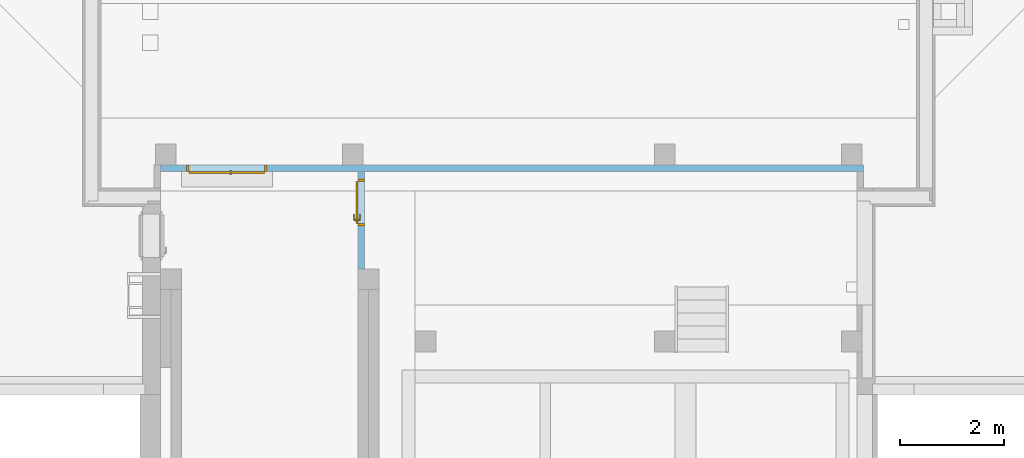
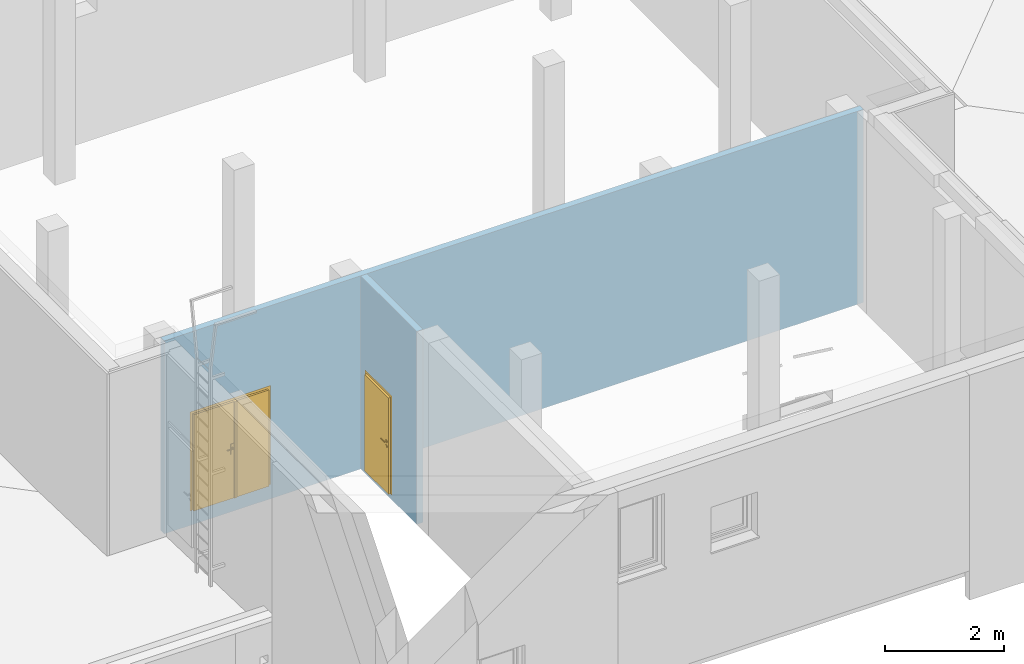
# One storey, part 14 of 17: 2 doors, 2 openings, plus 2 elements that do not belong to this part.
"""IFC4 building model written with IfcOpenShell, lengths in metres."""

from ifc_helpers import new_model, entity, si_unit, converted_unit, derived_unit, frame, frame_2d, origin, origin_with_axes, place, context, subcontext, project, spatial, polyline, rectangle, outline, extrude, closed_shell, open_shell, surface_model, source, transform, mapped, material, layer, layer_set, layer_usage, type_object, element, fill, save


model = new_model("IFC4")

# Units and contexts
model_context = context("Model", 3, precision=1e-05, world=origin())
body_context = subcontext(model_context, "Body", "Model", "MODEL_VIEW")
ifc_project = project(units=[si_unit("LENGTHUNIT", "METRE"), si_unit("AREAUNIT", "SQUARE_METRE"), si_unit("VOLUMEUNIT", "CUBIC_METRE"), si_unit("MASSUNIT", "GRAM", prefix="KILO"), converted_unit("PLANEANGLEUNIT", "DEGREE", entity("IfcPlaneAngleMeasure", 0.0174532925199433), si_unit("PLANEANGLEUNIT", "RADIAN"), dimensions=[0, 0, 0, 0, 0, 0, 0]), derived_unit("THERMALTRANSMITTANCEUNIT", [(si_unit("POWERUNIT", "WATT"), 1), (si_unit("THERMODYNAMICTEMPERATUREUNIT", "KELVIN"), -1), (si_unit("LENGTHUNIT", "METRE"), -2)]), derived_unit("VOLUMETRICFLOWRATEUNIT", [(si_unit("LENGTHUNIT", "METRE"), 3), (converted_unit("TIMEUNIT", "hour", entity("IfcTimeMeasure", 3600.0), si_unit("TIMEUNIT", "SECOND"), dimensions=[0, 0, 1, 0, 0, 0, 0]), -1), (si_unit("LENGTHUNIT", "METRE"), -1)])], contexts=[model_context])

# Site, building, storey
site_placement = place(None, origin())
site = spatial("IfcSite", under=ifc_project, at=site_placement, Name="3. ASŘ", CompositionType="ELEMENT")
building_placement = place(site_placement, origin())
building = spatial("IfcBuilding", under=site, at=building_placement, Name="Pavilon C", CompositionType="ELEMENT")
storey_placement = place(building_placement, frame((0.0, 0.0, 13.8)))
storey = spatial("IfcBuildingStorey", under=building, at=storey_placement, Name="Půdorys 5.NP", CompositionType="ELEMENT", Elevation=13.8)

# Wall, opening, door
ifc_material_1 = material(Name="ZDIVO Z CDm")
ifc_layer_1 = layer(ifc_material_1, 0.125)
ifc_layer_set_1 = layer_set([ifc_layer_1])
ifc_layer_usage_1 = layer_usage(ifc_layer_set_1, "AXIS2", "POSITIVE", 0.0)
wall_1_placement = place(storey_placement, frame((30.65, 3.275, -0.1)))
wall_1 = element("IfcWall", 1, at=wall_1_placement, inside=storey, material=ifc_layer_usage_1, Name="ZDIVO Z CDm", context=body_context, shape_type="SweptSolid", body=[
    extrude(rectangle(XDim=13.525, YDim=0.125, at=frame_2d((6.7625, 0.0625000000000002), x_axis=(1.0, 0.0))), origin_with_axes(), (0.0, 0.0, 1.0), 3.95),
])
opening_1_placement = place(wall_1_placement, frame((0.5, 0.0, 0.3), z_axis=(0.0, 1.0, 0.0), x_axis=(0.0, 0.0, 1.0)))
opening_1 = element("IfcOpeningElement", 2, at=opening_1_placement, cuts=wall_1, Name="Dveřní otvor", ObjectType="Opening", context=body_context, shape_type="SweptSolid", body=[
    extrude(outline(polyline([(0.0, 1.55), (2.02, 1.55), (2.02, 0.0), (0.0, 0.0), (0.0, 1.55)])), origin_with_axes(), (0.0, 0.0, 1.0), 0.125),
])
door_type_1 = type_object("IfcDoorType", Name="D501", OperationType="NOTDEFINED", ParameterTakesPrecedence=False, PredefinedType="DOOR")
shared_shape_1 = source(origin_with_axes(), body_context, "Body", "SurfaceModel", [
    surface_model("IfcShellBasedSurfaceModel", [(0.0, 0.125, 2.02), (0.0, 0.125, -7.65404249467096e-18), (0.05, 0.125, -7.65404249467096e-18), (0.05, 0.125, 2.02), (0.0, 0.0, 7.65404249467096e-18), (0.0, 2.41584530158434e-16, 2.02), (0.05, 2.41584530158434e-16, 2.02), (0.05, 0.0, 7.65404249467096e-18)], [closed_shell([[[0, 1, 2, 3]], [[4, 5, 6, 7]], [[1, 0, 5, 4]], [[2, 1, 4, 7]], [[3, 2, 7, 6]], [[0, 3, 6, 5]]], orient=[[False], [False], [False], [False], [False], [False]])]),
    surface_model("IfcShellBasedSurfaceModel", [(1.5, 0.125, 2.02), (1.5, 0.125, -7.65404249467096e-18), (1.55, 0.125, -7.65404249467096e-18), (1.55, 0.125, 2.02), (1.5, 0.0, 7.65404249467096e-18), (1.5, 2.41584530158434e-16, 2.02), (1.55, 2.41584530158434e-16, 2.02), (1.55, 0.0, 7.65404249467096e-18)], [closed_shell([[[0, 1, 2, 3]], [[4, 5, 6, 7]], [[1, 0, 5, 4]], [[2, 1, 4, 7]], [[3, 2, 7, 6]], [[0, 3, 6, 5]]], orient=[[False], [False], [False], [False], [False], [False]])]),
    surface_model("IfcShellBasedSurfaceModel", [(0.05, 0.125, 2.02), (0.05, 0.125, 1.97), (1.5, 0.125, 1.97), (1.5, 0.125, 2.02), (0.05, 2.41584530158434e-16, 1.97), (0.05, 2.41584530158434e-16, 2.02), (1.5, 2.41584530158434e-16, 2.02), (1.5, 2.41584530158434e-16, 1.97)], [closed_shell([[[0, 1, 2, 3]], [[4, 5, 6, 7]], [[1, 0, 5, 4]], [[2, 1, 4, 7]], [[3, 2, 7, 6]], [[0, 3, 6, 5]]], orient=[[False], [False], [False], [False], [False], [False]])]),
    surface_model("IfcShellBasedSurfaceModel", [(0.05, 0.165, 1.97), (0.05, 0.165, -1.25526296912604e-17), (0.85, 0.165, -1.25526296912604e-17), (0.85, 0.165, 1.97), (0.05, 0.125, -7.65404249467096e-18), (0.05, 0.125, 1.97), (0.85, 0.125, 1.97), (0.85, 0.125, -7.65404249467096e-18)], [closed_shell([[[0, 1, 2, 3]], [[4, 5, 6, 7]], [[1, 0, 5, 4]], [[2, 1, 4, 7]], [[3, 2, 7, 6]], [[0, 3, 6, 5]]], orient=[[False], [False], [False], [False], [False], [False]])]),
    surface_model("IfcShellBasedSurfaceModel", [(0.83, 0.165, 1.97), (0.87, 0.165, 1.97), (0.87, 0.165, -1.25526296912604e-17), (0.83, 0.165, -1.25526296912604e-17), (0.83, 0.185, -1.50019232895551e-17), (0.87, 0.185, -1.50019232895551e-17), (0.87, 0.185, 1.97), (0.83, 0.185, 1.97)], [closed_shell([[[0, 1, 2, 3]], [[4, 5, 6, 7]], [[3, 4, 7, 0]], [[2, 5, 4, 3]], [[1, 6, 5, 2]], [[0, 7, 6, 1]]], orient=[[False], [False], [False], [False], [False], [False]])]),
    surface_model("IfcShellBasedSurfaceModel", [(0.76, 0.125, 1.125), (0.76, 0.125, 0.91), (0.81, 0.125, 0.91), (0.81, 0.125, 1.125), (0.76, 0.115, 0.91), (0.76, 0.115, 1.125), (0.81, 0.115, 1.125), (0.81, 0.115, 0.91)], [closed_shell([[[0, 1, 2, 3]], [[4, 5, 6, 7]], [[1, 0, 5, 4]], [[2, 1, 4, 7]], [[3, 2, 7, 6]], [[0, 3, 6, 5]]], orient=[[False], [False], [False], [False], [False], [False]])]),
    surface_model("IfcShellBasedSurfaceModel", [(0.785, 0.115, 1.06), (0.78, 0.115, 1.05866025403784), (0.776339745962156, 0.115, 1.055), (0.775, 0.115, 1.05), (0.776339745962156, 0.115, 1.045), (0.78, 0.115, 1.04133974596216), (0.785, 0.115, 1.04), (0.79, 0.115, 1.04133974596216), (0.793660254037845, 0.115, 1.045), (0.795, 0.115, 1.05), (0.793660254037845, 0.115, 1.055), (0.79, 0.115, 1.05866025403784), (0.79, 0.0700000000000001, 1.05866025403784), (0.785, 0.0750000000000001, 1.06), (0.793660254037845, 0.0663397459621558, 1.055), (0.795, 0.0650000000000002, 1.05), (0.793660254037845, 0.0663397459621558, 1.045), (0.79, 0.0700000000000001, 1.04133974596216), (0.785, 0.0750000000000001, 1.04), (0.78, 0.0800000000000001, 1.04133974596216), (0.776339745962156, 0.0836602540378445, 1.045), (0.775, 0.0850000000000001, 1.05), (0.776339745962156, 0.0836602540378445, 1.055), (0.78, 0.0800000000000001, 1.05866025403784), (0.67, 0.0700000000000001, 1.05866025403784), (0.67, 0.0750000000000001, 1.06), (0.67, 0.0663397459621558, 1.055), (0.67, 0.0650000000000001, 1.05), (0.67, 0.0663397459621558, 1.045), (0.67, 0.0700000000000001, 1.04133974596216), (0.67, 0.0750000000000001, 1.04), (0.67, 0.0800000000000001, 1.04133974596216), (0.67, 0.0836602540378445, 1.045), (0.67, 0.0850000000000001, 1.05), (0.67, 0.0836602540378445, 1.055), (0.67, 0.0800000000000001, 1.05866025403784)], [open_shell([[[0, 1, 2, 3, 4, 5, 6, 7, 8, 9, 10, 11]], [[0, 11, 12, 13]], [[11, 10, 14, 12]], [[10, 9, 15, 14]], [[9, 8, 16, 15]], [[8, 7, 17, 16]], [[7, 6, 18, 17]], [[6, 5, 19, 18]], [[5, 4, 20, 19]], [[4, 3, 21, 20]], [[3, 2, 22, 21]], [[2, 1, 23, 22]], [[1, 0, 13, 23]], [[13, 12, 24, 25]], [[12, 14, 26, 24]], [[14, 15, 27, 26]], [[15, 16, 28, 27]], [[16, 17, 29, 28]], [[17, 18, 30, 29]], [[18, 19, 31, 30]], [[19, 20, 32, 31]], [[20, 21, 33, 32]], [[21, 22, 34, 33]], [[22, 23, 35, 34]], [[23, 13, 25, 35]]], orient=[[False], [False], [False], [False], [False], [False], [False], [False], [False], [False], [False], [False], [False], [False], [False], [False], [False], [False], [False], [False], [False], [False], [False], [False], [False]])]),
    surface_model("IfcShellBasedSurfaceModel", [(0.76, 0.165, 1.125), (0.81, 0.165, 1.125), (0.81, 0.165, 0.91), (0.76, 0.165, 0.91), (0.76, 0.175, 0.91), (0.81, 0.175, 0.91), (0.81, 0.175, 1.125), (0.76, 0.175, 1.125)], [closed_shell([[[0, 1, 2, 3]], [[4, 5, 6, 7]], [[3, 4, 7, 0]], [[2, 5, 4, 3]], [[1, 6, 5, 2]], [[0, 7, 6, 1]]], orient=[[False], [False], [False], [False], [False], [False]])]),
    surface_model("IfcShellBasedSurfaceModel", [(0.785, 0.175, 1.06), (0.79, 0.175, 1.05866025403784), (0.793660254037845, 0.175, 1.055), (0.795, 0.175, 1.05), (0.793660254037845, 0.175, 1.045), (0.79, 0.175, 1.04133974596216), (0.785, 0.175, 1.04), (0.78, 0.175, 1.04133974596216), (0.776339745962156, 0.175, 1.045), (0.775, 0.175, 1.05), (0.776339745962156, 0.175, 1.055), (0.78, 0.175, 1.05866025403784), (0.785, 0.215, 1.06), (0.79, 0.22, 1.05866025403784), (0.793660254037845, 0.223660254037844, 1.055), (0.795, 0.225, 1.05), (0.793660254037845, 0.223660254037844, 1.045), (0.79, 0.22, 1.04133974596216), (0.785, 0.215, 1.04), (0.78, 0.21, 1.04133974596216), (0.776339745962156, 0.206339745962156, 1.045), (0.775, 0.205, 1.05), (0.776339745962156, 0.206339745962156, 1.055), (0.78, 0.21, 1.05866025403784), (0.67, 0.215, 1.06), (0.67, 0.22, 1.05866025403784), (0.67, 0.223660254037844, 1.055), (0.67, 0.225, 1.05), (0.67, 0.223660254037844, 1.045), (0.67, 0.22, 1.04133974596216), (0.67, 0.215, 1.04), (0.67, 0.21, 1.04133974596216), (0.67, 0.206339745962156, 1.045), (0.67, 0.205, 1.05), (0.67, 0.206339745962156, 1.055), (0.67, 0.21, 1.05866025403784)], [open_shell([[[0, 1, 2, 3, 4, 5, 6, 7, 8, 9, 10, 11]], [[0, 12, 13, 1]], [[1, 13, 14, 2]], [[2, 14, 15, 3]], [[3, 15, 16, 4]], [[4, 16, 17, 5]], [[5, 17, 18, 6]], [[6, 18, 19, 7]], [[7, 19, 20, 8]], [[8, 20, 21, 9]], [[9, 21, 22, 10]], [[10, 22, 23, 11]], [[11, 23, 12, 0]], [[12, 24, 25, 13]], [[13, 25, 26, 14]], [[14, 26, 27, 15]], [[15, 27, 28, 16]], [[16, 28, 29, 17]], [[17, 29, 30, 18]], [[18, 30, 31, 19]], [[19, 31, 32, 20]], [[20, 32, 33, 21]], [[21, 33, 34, 22]], [[22, 34, 35, 23]], [[23, 35, 24, 12]]], orient=[[False], [False], [False], [False], [False], [False], [False], [False], [False], [False], [False], [False], [False], [False], [False], [False], [False], [False], [False], [False], [False], [False], [False], [False], [False]])]),
    surface_model("IfcShellBasedSurfaceModel", [(0.851, 0.165, 1.97), (0.851, 0.165, -1.25526296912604e-17), (1.5, 0.165, -1.25526296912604e-17), (1.5, 0.165, 1.97), (0.851, 0.125, -7.65404249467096e-18), (0.851, 0.125, 1.97), (1.5, 0.125, 1.97), (1.5, 0.125, -7.65404249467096e-18)], [closed_shell([[[0, 1, 2, 3]], [[4, 5, 6, 7]], [[1, 0, 5, 4]], [[2, 1, 4, 7]], [[3, 2, 7, 6]], [[0, 3, 6, 5]]], orient=[[False], [False], [False], [False], [False], [False]])]),
    surface_model("IfcShellBasedSurfaceModel", [(0.831, 0.125, 1.97), (0.831, 0.125, -7.65404249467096e-18), (0.871, 0.125, -7.65404249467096e-18), (0.871, 0.125, 1.97), (0.831, 0.105, -5.20474889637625e-18), (0.831, 0.105, 1.97), (0.871, 0.105, 1.97), (0.871, 0.105, -5.20474889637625e-18)], [closed_shell([[[0, 1, 2, 3]], [[4, 5, 6, 7]], [[1, 0, 5, 4]], [[2, 1, 4, 7]], [[3, 2, 7, 6]], [[0, 3, 6, 5]]], orient=[[False], [False], [False], [False], [False], [False]])]),
])
door_1_placement = place(opening_1_placement, frame((0.0, 0.0, 0.125), z_axis=(1.0, 0.0, 0.0), x_axis=(0.0, 1.0, -1.22464679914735e-16)))
door_1 = element("IfcDoor", 3, at=door_1_placement, inside=storey, type_object=door_type_1, Name="D501", OverallHeight=2.02, OverallWidth=1.55, context=body_context, shape_type="MappedRepresentation", body=[
    mapped(shared_shape_1, transform((0.0, 0.0, 0.0), x_axis=(1.0, 0.0, 0.0), y_axis=(0.0, -1.0, 0.0), z_axis=(0.0, 0.0, 1.0), scale=1.0)),
])
fill(opening_1, door_1)

ifc_material_2 = material(Name="ZDIVO Z CDm")
ifc_layer_2 = layer(ifc_material_2, 0.125)
ifc_layer_set_2 = layer_set([ifc_layer_2])
ifc_layer_usage_2 = layer_usage(ifc_layer_set_2, "AXIS2", "POSITIVE", 0.0)
wall_2_placement = place(storey_placement, frame((34.45, 3.275, -0.1), z_axis=(0.0, 0.0, 1.0), x_axis=(0.0, -1.0, 0.0)))
wall_2 = element("IfcWall", 4, at=wall_2_placement, inside=storey, material=ifc_layer_usage_2, Name="ZDIVO Z CDm", context=body_context, shape_type="SweptSolid", body=[
    extrude(rectangle(XDim=1.875, YDim=0.125, at=frame_2d((0.937499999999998, 0.0625), x_axis=(1.0, 0.0))), origin_with_axes(), (0.0, 0.0, 1.0), 3.95),
])
opening_2_placement = place(wall_2_placement, frame((1.05, 0.125, 0.1), z_axis=(0.0, -1.0, 0.0), x_axis=(0.0, 0.0, 1.0)))
opening_2 = element("IfcOpeningElement", 5, at=opening_2_placement, cuts=wall_2, Name="Dveřní otvor", ObjectType="Opening", context=body_context, shape_type="SweptSolid", body=[
    extrude(outline(polyline([(0.0, 0.9), (2.02, 0.9), (2.02, 0.0), (0.0, 0.0), (0.0, 0.9)])), origin_with_axes(), (0.0, 0.0, 1.0), 0.125),
])
door_type_2 = type_object("IfcDoorType", Name="D101", OperationType="NOTDEFINED", ParameterTakesPrecedence=False, PredefinedType="DOOR")
shared_shape_2 = source(origin_with_axes(), body_context, "Body", "SurfaceModel", [
    surface_model("IfcShellBasedSurfaceModel", [(0.0, 0.125, 2.02), (0.0, 0.125, -7.65404249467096e-18), (0.05, 0.125, -7.65404249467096e-18), (0.05, 0.125, 2.02), (0.0, 0.0, 7.65404249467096e-18), (0.0, 2.41584530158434e-16, 2.02), (0.05, 2.41584530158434e-16, 2.02), (0.05, 0.0, 7.65404249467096e-18)], [closed_shell([[[0, 1, 2, 3]], [[4, 5, 6, 7]], [[1, 0, 5, 4]], [[2, 1, 4, 7]], [[3, 2, 7, 6]], [[0, 3, 6, 5]]], orient=[[False], [False], [False], [False], [False], [False]])]),
    surface_model("IfcShellBasedSurfaceModel", [(0.85, 0.125, 2.02), (0.85, 0.125, -7.65404249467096e-18), (0.9, 0.125, -7.65404249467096e-18), (0.9, 0.125, 2.02), (0.85, 0.0, 7.65404249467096e-18), (0.85, 2.41584530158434e-16, 2.02), (0.9, 2.41584530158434e-16, 2.02), (0.9, 0.0, 7.65404249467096e-18)], [closed_shell([[[0, 1, 2, 3]], [[4, 5, 6, 7]], [[1, 0, 5, 4]], [[2, 1, 4, 7]], [[3, 2, 7, 6]], [[0, 3, 6, 5]]], orient=[[False], [False], [False], [False], [False], [False]])]),
    surface_model("IfcShellBasedSurfaceModel", [(0.05, 0.125, 2.02), (0.05, 0.125, 1.97), (0.85, 0.125, 1.97), (0.85, 0.125, 2.02), (0.05, 2.41584530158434e-16, 1.97), (0.05, 2.41584530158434e-16, 2.02), (0.85, 2.41584530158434e-16, 2.02), (0.85, 2.41584530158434e-16, 1.97)], [closed_shell([[[0, 1, 2, 3]], [[4, 5, 6, 7]], [[1, 0, 5, 4]], [[2, 1, 4, 7]], [[3, 2, 7, 6]], [[0, 3, 6, 5]]], orient=[[False], [False], [False], [False], [False], [False]])]),
    surface_model("IfcShellBasedSurfaceModel", [(0.05, 0.165, 1.97), (0.05, 0.165, -1.25526296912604e-17), (0.85, 0.165, -1.25526296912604e-17), (0.85, 0.165, 1.97), (0.05, 0.125, -7.65404249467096e-18), (0.05, 0.125, 1.97), (0.85, 0.125, 1.97), (0.85, 0.125, -7.65404249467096e-18)], [closed_shell([[[0, 1, 2, 3]], [[4, 5, 6, 7]], [[1, 0, 5, 4]], [[2, 1, 4, 7]], [[3, 2, 7, 6]], [[0, 3, 6, 5]]], orient=[[False], [False], [False], [False], [False], [False]])]),
    surface_model("IfcShellBasedSurfaceModel", [(0.808815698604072, 0.125, 0.93625), (0.8125, 0.125, 0.95), (0.808815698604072, 0.125, 0.96375), (0.79875, 0.125, 0.973815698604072), (0.785, 0.125, 0.9775), (0.77125, 0.125, 0.973815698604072), (0.761184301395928, 0.125, 0.96375), (0.7575, 0.125, 0.95), (0.761184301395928, 0.125, 0.93625), (0.77125, 0.125, 0.926184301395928), (0.785, 0.125, 0.9225), (0.79875, 0.125, 0.926184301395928), (0.8125, 0.1125, 0.95), (0.808815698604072, 0.1125, 0.93625), (0.79875, 0.1125, 0.926184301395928), (0.785, 0.1125, 0.9225), (0.77125, 0.1125, 0.926184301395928), (0.761184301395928, 0.1125, 0.93625), (0.7575, 0.1125, 0.95), (0.761184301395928, 0.1125, 0.96375), (0.77125, 0.1125, 0.973815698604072), (0.785, 0.1125, 0.9775), (0.79875, 0.1125, 0.973815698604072), (0.808815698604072, 0.1125, 0.96375)], [closed_shell([[[0, 1, 2, 3, 4, 5, 6, 7, 8, 9, 10, 11]], [[12, 13, 14, 15, 16, 17, 18, 19, 20, 21, 22, 23]], [[1, 0, 13, 12]], [[2, 1, 12, 23]], [[3, 2, 23, 22]], [[4, 3, 22, 21]], [[5, 4, 21, 20]], [[6, 5, 20, 19]], [[7, 6, 19, 18]], [[8, 7, 18, 17]], [[9, 8, 17, 16]], [[10, 9, 16, 15]], [[11, 10, 15, 14]], [[0, 11, 14, 13]]], orient=[[False], [False], [False], [False], [False], [False], [False], [False], [False], [False], [False], [False], [False], [False]])]),
    surface_model("IfcShellBasedSurfaceModel", [(0.808815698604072, 0.125, 1.03625), (0.8125, 0.125, 1.05), (0.808815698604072, 0.125, 1.06375), (0.79875, 0.125, 1.07381569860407), (0.785, 0.125, 1.0775), (0.77125, 0.125, 1.07381569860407), (0.761184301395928, 0.125, 1.06375), (0.7575, 0.125, 1.05), (0.761184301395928, 0.125, 1.03625), (0.77125, 0.125, 1.02618430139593), (0.785, 0.125, 1.0225), (0.79875, 0.125, 1.02618430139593), (0.8125, 0.1125, 1.05), (0.808815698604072, 0.1125, 1.03625), (0.79875, 0.1125, 1.02618430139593), (0.785, 0.1125, 1.0225), (0.77125, 0.1125, 1.02618430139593), (0.761184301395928, 0.1125, 1.03625), (0.7575, 0.1125, 1.05), (0.761184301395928, 0.1125, 1.06375), (0.77125, 0.1125, 1.07381569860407), (0.785, 0.1125, 1.0775), (0.79875, 0.1125, 1.07381569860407), (0.808815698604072, 0.1125, 1.06375)], [closed_shell([[[0, 1, 2, 3, 4, 5, 6, 7, 8, 9, 10, 11]], [[12, 13, 14, 15, 16, 17, 18, 19, 20, 21, 22, 23]], [[1, 0, 13, 12]], [[2, 1, 12, 23]], [[3, 2, 23, 22]], [[4, 3, 22, 21]], [[5, 4, 21, 20]], [[6, 5, 20, 19]], [[7, 6, 19, 18]], [[8, 7, 18, 17]], [[9, 8, 17, 16]], [[10, 9, 16, 15]], [[11, 10, 15, 14]], [[0, 11, 14, 13]]], orient=[[False], [False], [False], [False], [False], [False], [False], [False], [False], [False], [False], [False], [False], [False]])]),
    surface_model("IfcShellBasedSurfaceModel", [(0.785, 0.125, 1.06), (0.78, 0.125, 1.05866025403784), (0.776339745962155, 0.125, 1.055), (0.775, 0.125, 1.05), (0.776339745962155, 0.125, 1.045), (0.78, 0.125, 1.04133974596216), (0.785, 0.125, 1.04), (0.79, 0.125, 1.04133974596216), (0.793660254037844, 0.125, 1.045), (0.795, 0.125, 1.05), (0.793660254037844, 0.125, 1.055), (0.79, 0.125, 1.05866025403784), (0.79, 0.0800000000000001, 1.05866025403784), (0.785, 0.0850000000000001, 1.06), (0.793660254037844, 0.0763397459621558, 1.055), (0.795, 0.0750000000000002, 1.05), (0.793660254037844, 0.0763397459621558, 1.045), (0.79, 0.0800000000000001, 1.04133974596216), (0.785, 0.0850000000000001, 1.04), (0.78, 0.0900000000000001, 1.04133974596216), (0.776339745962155, 0.0936602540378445, 1.045), (0.775, 0.0950000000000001, 1.05), (0.776339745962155, 0.0936602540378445, 1.055), (0.78, 0.0900000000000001, 1.05866025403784), (0.67, 0.0800000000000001, 1.05866025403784), (0.67, 0.0850000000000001, 1.06), (0.67, 0.0763397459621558, 1.055), (0.67, 0.0750000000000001, 1.05), (0.67, 0.0763397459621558, 1.045), (0.67, 0.0800000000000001, 1.04133974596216), (0.67, 0.0850000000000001, 1.04), (0.67, 0.0900000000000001, 1.04133974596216), (0.67, 0.0936602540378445, 1.045), (0.67, 0.0950000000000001, 1.05), (0.67, 0.0936602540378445, 1.055), (0.67, 0.0900000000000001, 1.05866025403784)], [open_shell([[[0, 1, 2, 3, 4, 5, 6, 7, 8, 9, 10, 11]], [[0, 11, 12, 13]], [[11, 10, 14, 12]], [[10, 9, 15, 14]], [[9, 8, 16, 15]], [[8, 7, 17, 16]], [[7, 6, 18, 17]], [[6, 5, 19, 18]], [[5, 4, 20, 19]], [[4, 3, 21, 20]], [[3, 2, 22, 21]], [[2, 1, 23, 22]], [[1, 0, 13, 23]], [[13, 12, 24, 25]], [[12, 14, 26, 24]], [[14, 15, 27, 26]], [[15, 16, 28, 27]], [[16, 17, 29, 28]], [[17, 18, 30, 29]], [[18, 19, 31, 30]], [[19, 20, 32, 31]], [[20, 21, 33, 32]], [[21, 22, 34, 33]], [[22, 23, 35, 34]], [[23, 13, 25, 35]]], orient=[[False], [False], [False], [False], [False], [False], [False], [False], [False], [False], [False], [False], [False], [False], [False], [False], [False], [False], [False], [False], [False], [False], [False], [False], [False]])]),
    surface_model("IfcShellBasedSurfaceModel", [(0.808815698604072, 0.165, 0.93625), (0.79875, 0.165, 0.926184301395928), (0.785, 0.165, 0.9225), (0.77125, 0.165, 0.926184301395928), (0.761184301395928, 0.165, 0.93625), (0.7575, 0.165, 0.95), (0.761184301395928, 0.165, 0.96375), (0.77125, 0.165, 0.973815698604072), (0.785, 0.165, 0.9775), (0.79875, 0.165, 0.973815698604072), (0.808815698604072, 0.165, 0.96375), (0.8125, 0.165, 0.95), (0.8125, 0.1775, 0.95), (0.808815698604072, 0.1775, 0.96375), (0.79875, 0.1775, 0.973815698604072), (0.785, 0.1775, 0.9775), (0.77125, 0.1775, 0.973815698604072), (0.761184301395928, 0.1775, 0.96375), (0.7575, 0.1775, 0.95), (0.761184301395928, 0.1775, 0.93625), (0.77125, 0.1775, 0.926184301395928), (0.785, 0.1775, 0.9225), (0.79875, 0.1775, 0.926184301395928), (0.808815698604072, 0.1775, 0.93625)], [closed_shell([[[0, 1, 2, 3, 4, 5, 6, 7, 8, 9, 10, 11]], [[12, 13, 14, 15, 16, 17, 18, 19, 20, 21, 22, 23]], [[11, 12, 23, 0]], [[10, 13, 12, 11]], [[9, 14, 13, 10]], [[8, 15, 14, 9]], [[7, 16, 15, 8]], [[6, 17, 16, 7]], [[5, 18, 17, 6]], [[4, 19, 18, 5]], [[3, 20, 19, 4]], [[2, 21, 20, 3]], [[1, 22, 21, 2]], [[0, 23, 22, 1]]], orient=[[False], [False], [False], [False], [False], [False], [False], [False], [False], [False], [False], [False], [False], [False]])]),
    surface_model("IfcShellBasedSurfaceModel", [(0.808815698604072, 0.165, 1.03625), (0.79875, 0.165, 1.02618430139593), (0.785, 0.165, 1.0225), (0.77125, 0.165, 1.02618430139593), (0.761184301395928, 0.165, 1.03625), (0.7575, 0.165, 1.05), (0.761184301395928, 0.165, 1.06375), (0.77125, 0.165, 1.07381569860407), (0.785, 0.165, 1.0775), (0.79875, 0.165, 1.07381569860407), (0.808815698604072, 0.165, 1.06375), (0.8125, 0.165, 1.05), (0.8125, 0.1775, 1.05), (0.808815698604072, 0.1775, 1.06375), (0.79875, 0.1775, 1.07381569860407), (0.785, 0.1775, 1.0775), (0.77125, 0.1775, 1.07381569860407), (0.761184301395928, 0.1775, 1.06375), (0.7575, 0.1775, 1.05), (0.761184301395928, 0.1775, 1.03625), (0.77125, 0.1775, 1.02618430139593), (0.785, 0.1775, 1.0225), (0.79875, 0.1775, 1.02618430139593), (0.808815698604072, 0.1775, 1.03625)], [closed_shell([[[0, 1, 2, 3, 4, 5, 6, 7, 8, 9, 10, 11]], [[12, 13, 14, 15, 16, 17, 18, 19, 20, 21, 22, 23]], [[11, 12, 23, 0]], [[10, 13, 12, 11]], [[9, 14, 13, 10]], [[8, 15, 14, 9]], [[7, 16, 15, 8]], [[6, 17, 16, 7]], [[5, 18, 17, 6]], [[4, 19, 18, 5]], [[3, 20, 19, 4]], [[2, 21, 20, 3]], [[1, 22, 21, 2]], [[0, 23, 22, 1]]], orient=[[False], [False], [False], [False], [False], [False], [False], [False], [False], [False], [False], [False], [False], [False]])]),
    surface_model("IfcShellBasedSurfaceModel", [(0.785, 0.165, 1.06), (0.79, 0.165, 1.05866025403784), (0.793660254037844, 0.165, 1.055), (0.795, 0.165, 1.05), (0.793660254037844, 0.165, 1.045), (0.79, 0.165, 1.04133974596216), (0.785, 0.165, 1.04), (0.78, 0.165, 1.04133974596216), (0.776339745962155, 0.165, 1.045), (0.775, 0.165, 1.05), (0.776339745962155, 0.165, 1.055), (0.78, 0.165, 1.05866025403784), (0.785, 0.205, 1.06), (0.79, 0.21, 1.05866025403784), (0.793660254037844, 0.213660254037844, 1.055), (0.795, 0.215, 1.05), (0.793660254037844, 0.213660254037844, 1.045), (0.79, 0.21, 1.04133974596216), (0.785, 0.205, 1.04), (0.78, 0.2, 1.04133974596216), (0.776339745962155, 0.196339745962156, 1.045), (0.775, 0.195, 1.05), (0.776339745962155, 0.196339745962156, 1.055), (0.78, 0.2, 1.05866025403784), (0.67, 0.205, 1.06), (0.67, 0.21, 1.05866025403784), (0.67, 0.213660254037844, 1.055), (0.67, 0.215, 1.05), (0.67, 0.213660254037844, 1.045), (0.67, 0.21, 1.04133974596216), (0.67, 0.205, 1.04), (0.67, 0.2, 1.04133974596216), (0.67, 0.196339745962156, 1.045), (0.67, 0.195, 1.05), (0.67, 0.196339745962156, 1.055), (0.67, 0.2, 1.05866025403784)], [open_shell([[[0, 1, 2, 3, 4, 5, 6, 7, 8, 9, 10, 11]], [[0, 12, 13, 1]], [[1, 13, 14, 2]], [[2, 14, 15, 3]], [[3, 15, 16, 4]], [[4, 16, 17, 5]], [[5, 17, 18, 6]], [[6, 18, 19, 7]], [[7, 19, 20, 8]], [[8, 20, 21, 9]], [[9, 21, 22, 10]], [[10, 22, 23, 11]], [[11, 23, 12, 0]], [[12, 24, 25, 13]], [[13, 25, 26, 14]], [[14, 26, 27, 15]], [[15, 27, 28, 16]], [[16, 28, 29, 17]], [[17, 29, 30, 18]], [[18, 30, 31, 19]], [[19, 31, 32, 20]], [[20, 32, 33, 21]], [[21, 33, 34, 22]], [[22, 34, 35, 23]], [[23, 35, 24, 12]]], orient=[[False], [False], [False], [False], [False], [False], [False], [False], [False], [False], [False], [False], [False], [False], [False], [False], [False], [False], [False], [False], [False], [False], [False], [False], [False]])]),
])
door_2_placement = place(opening_2_placement, frame((0.0, 0.899999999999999, 1.45519152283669e-14), z_axis=(1.0, 0.0, 0.0), x_axis=(0.0, -1.0, 1.22464679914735e-16)))
door_2 = element("IfcDoor", 6, at=door_2_placement, inside=storey, type_object=door_type_2, Name="D101", OverallHeight=2.02, OverallWidth=0.9, context=body_context, shape_type="MappedRepresentation", body=[
    mapped(shared_shape_2, transform((0.0, 0.0, 0.0), x_axis=(1.0, 0.0, 0.0), y_axis=(0.0, -1.0, 0.0), z_axis=(0.0, 0.0, 1.0), scale=1.0)),
])
fill(opening_2, door_2)

save(model, "model.ifc")
